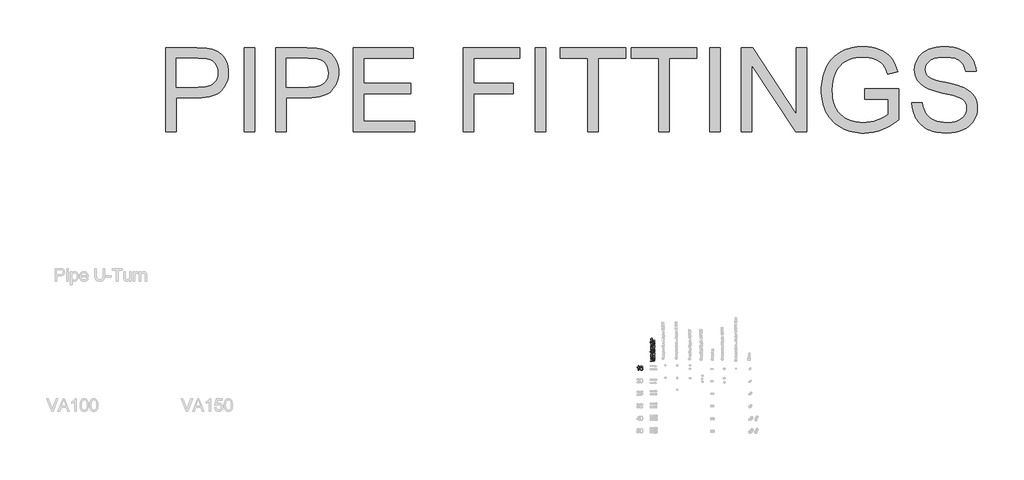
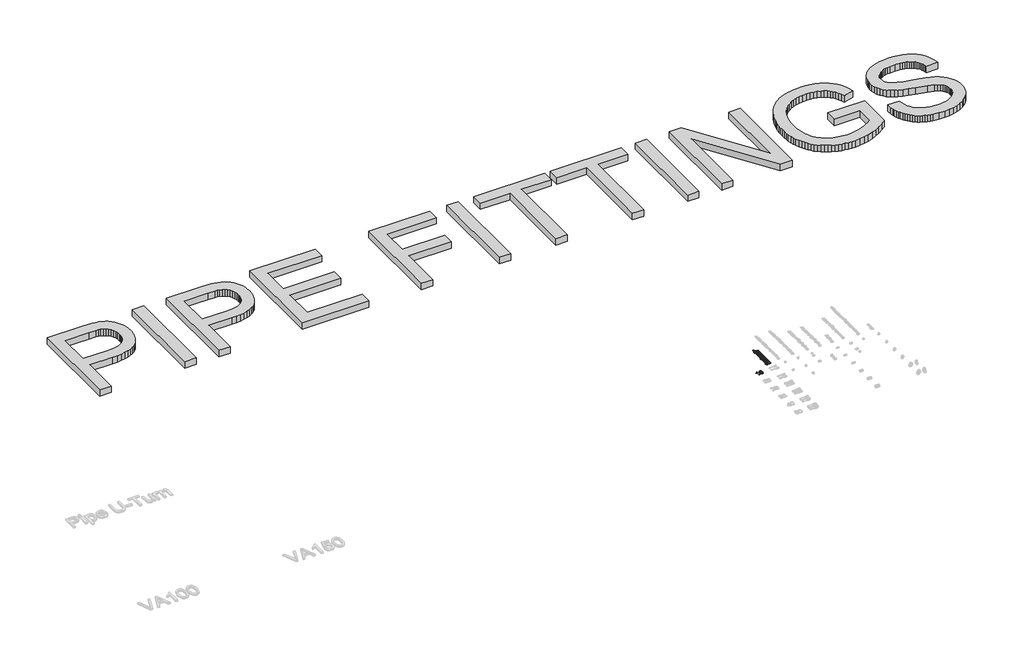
# One storey, part 22 of 26: 3 proxies.
"""IFC4 building model written with IfcOpenShell, lengths in millimetres."""

from ifc_helpers import new_model, si_unit, origin, origin_with_axes, place, context, project, spatial, polyline, outline, extrude, element, save

model = new_model("IFC4")

# Units and contexts
model_context = context("Model", 3, world=origin())
ifc_project = project(units=[si_unit("LENGTHUNIT", "METRE", prefix="MILLI")], contexts=[model_context])

# Site, building, storey
site = spatial("IfcSite", under=ifc_project)
building = spatial("IfcBuilding", under=site)
storey = spatial("IfcBuildingStorey", under=building, Name="Superpipe UFH", Elevation=0.0)

# Proxies
placement = place(None, origin())
element("IfcBuildingElementProxy", 1, Name="100mm Arial", ObjectType="100mm Arial", at=placement, inside=storey, context=model_context, shape_type="SweptSolid", body=[
    extrude(outline(polyline([(25445.0904934, 32173.57602), (25432.5334546, 32173.57602), (25432.5334546, 32251.8613086), (25420.6386035, 32243.3877599), (25407.4193771, 32237.0479269), (25407.4193771, 32248.9182526), (25425.8257396, 32260.665951), (25436.9970895, 32274.0323301), (25445.0904934, 32274.0323301), (25445.0904934, 32173.57602)])), origin_with_axes(), (0.0, 0.0, 1.0), 2.0),
    extrude(outline(polyline([(25539.2682842, 32247.3486228), (25526.7112454, 32245.7789929), (25521.9533049, 32256.251367), (25509.3717407, 32261.4752914), (25498.0409753, 32258.4341335), (25489.4693248, 32247.017529), (25485.9008694, 32224.6380409), (25496.9741175, 32234.6566939), (25510.6961159, 32237.9308437), (25522.2966615, 32235.6928949), (25532.0332716, 32228.9790485), (25538.6367534, 32218.7212722), (25540.837914, 32205.8515337), (25536.6931102, 32188.5242917), (25525.2887684, 32176.2615586), (25508.8321804, 32172.0063901), (25494.5859502, 32174.8268188), (25483.2398563, 32183.2881047), (25475.8178371, 32198.2241137), (25473.3438306, 32220.4687116), (25476.0906829, 32245.4785559), (25484.3312396, 32262.5789374), (25495.5822973, 32271.1689819), (25510.1565556, 32274.0323301), (25521.1746214, 32272.2603652), (25529.9976579, 32266.9444704), (25536.1780754, 32258.5015786), (25539.2682842, 32247.3486228)]), holes=[polyline([(25485.9008694, 32206.0477374), (25488.8071372, 32195.1706931), (25496.5326591, 32187.2734929), (25507.8511618, 32184.5634289), (25516.1377037, 32185.9675119), (25522.6522807, 32190.1797607), (25526.8737266, 32196.8016366), (25528.2808753, 32205.4346008), (25526.8921207, 32213.7211427), (25522.7258571, 32220.039516), (25516.1009155, 32224.0402327), (25507.336127, 32225.3738049), (25492.1426006, 32220.039516), (25487.4613022, 32213.8744269), (25485.9008694, 32206.0477374)])]), origin_with_axes(), (0.0, 0.0, 1.0), 2.0),
])
element("IfcBuildingElementProxy", 2, Name="2000mm Arial", ObjectType="2000mm Arial", at=placement, inside=storey, context=model_context, shape_type="SweptSolid", body=[
    extrude(outline(polyline([(14118.3923243, 37878.9278369), (14118.3923243, 39888.0540399), (14862.9854825, 39888.0540399), (15036.3805296, 39883.271574), (15105.6036583, 39877.2934915), (15163.1771906, 39868.9241761), (15233.0594412, 39853.8563428), (15297.0249231, 39833.1783089), (15355.0736363, 39806.8900747), (15407.2055807, 39774.99164), (15453.9725793, 39736.823883), (15495.9264552, 39691.7276818), (15533.0672083, 39639.7030363), (15565.3948386, 39580.7499466), (15591.575774, 39516.8151215), (15610.276442, 39449.84527), (15621.4968429, 39379.840392), (15625.2369765, 39306.8004875), (15622.7116199, 39243.9003305), (15615.1355501, 39183.4680486), (15602.508767, 39125.5036418), (15584.8312707, 39070.0071099), (15562.1030612, 39016.9784532), (15534.3241385, 38966.4176715), (15501.4945025, 38918.3247648), (15463.6141533, 38872.6997332), (15419.142585, 38831.0830825), (15366.5392918, 38795.0153186), (15305.8042737, 38764.4964414), (15236.9375306, 38739.5264509), (15159.9390626, 38720.1053473), (15074.8088696, 38706.2331304), (14981.5469518, 38697.9098002), (14880.1533089, 38695.1353569), (14369.5330996, 38695.1353569), (14369.5330996, 37878.9278369), (14118.3923243, 37878.9278369)]), holes=[polyline([(14369.5330996, 38946.2761322), (14894.8685888, 38946.2761322), (15015.6565105, 38952.0396168), (15068.968743, 38959.2439726), (15117.5598232, 38969.3300706), (15161.4297511, 38982.2979109), (15200.5785267, 38998.1474936), (15235.0061501, 39016.8788185), (15264.7126212, 39038.4918857), (15290.3493978, 39062.7184479), (15312.5679374, 39089.2902579), (15331.3682402, 39118.2073155), (15346.7503062, 39149.4696209), (15358.7141352, 39183.077174), (15367.2597274, 39219.0299748), (15372.3870827, 39257.3280234), (15374.0962011, 39297.9713196), (15370.0648276, 39356.5871842), (15357.970707, 39410.7884648), (15337.8138394, 39460.5751615), (15309.5942246, 39505.9472742), (15274.8140477, 39545.433275), (15234.9754933, 39577.561636), (15190.0785615, 39602.332357), (15140.1232522, 39619.7454381), (15098.8591551, 39627.2563621), (15043.2476601, 39632.6213079), (14888.9824768, 39636.9132645), (14369.5330996, 39636.9132645), (14369.5330996, 38946.2761322)])]), origin_with_axes(), (0.0, 0.0, 1.0), 150.0),
    extrude(outline(polyline([(16001.9481396, 37878.9278369), (16001.9481396, 39888.0540399), (16253.0889149, 39888.0540399), (16253.0889149, 37878.9278369), (16001.9481396, 37878.9278369)])), origin_with_axes(), (0.0, 0.0, 1.0), 150.0),
    extrude(outline(polyline([(16755.3704657, 37878.9278369), (16755.3704657, 39888.0540399), (17499.9636239, 39888.0540399), (17673.358671, 39883.271574), (17742.5817997, 39877.2934915), (17800.155332, 39868.9241761), (17870.0375827, 39853.8563428), (17934.0030646, 39833.1783089), (17992.0517777, 39806.8900747), (18044.1837221, 39774.99164), (18090.9507208, 39736.823883), (18132.9045966, 39691.7276818), (18170.0453497, 39639.7030363), (18202.3729801, 39580.7499466), (18228.5539154, 39516.8151215), (18247.2545835, 39449.84527), (18258.4749843, 39379.840392), (18262.2151179, 39306.8004875), (18259.6897613, 39243.9003305), (18252.1136915, 39183.4680486), (18239.4869084, 39125.5036418), (18221.8094121, 39070.0071099), (18199.0812026, 39016.9784532), (18171.3022799, 38966.4176715), (18138.4726439, 38918.3247648), (18100.5922947, 38872.6997332), (18056.1207265, 38831.0830825), (18003.5174332, 38795.0153186), (17942.7824151, 38764.4964414), (17873.915672, 38739.5264509), (17796.917204, 38720.1053473), (17711.7870111, 38706.2331304), (17618.5250932, 38697.9098002), (17517.1314504, 38695.1353569), (17006.5112411, 38695.1353569), (17006.5112411, 37878.9278369), (16755.3704657, 37878.9278369)]), holes=[polyline([(17006.5112411, 38946.2761322), (17531.8467302, 38946.2761322), (17652.6346519, 38952.0396168), (17705.9468844, 38959.2439726), (17754.5379646, 38969.3300706), (17798.4078925, 38982.2979109), (17837.5566682, 38998.1474936), (17871.9842916, 39016.8788185), (17901.6907627, 39038.4918857), (17927.3275392, 39062.7184479), (17949.5460789, 39089.2902579), (17968.3463817, 39118.2073155), (17983.7284476, 39149.4696209), (17995.6922766, 39183.077174), (18004.2378688, 39219.0299748), (18009.3652241, 39257.3280234), (18011.0743426, 39297.9713196), (18007.042969, 39356.5871842), (17994.9488484, 39410.7884648), (17974.7919808, 39460.5751615), (17946.5723661, 39505.9472742), (17911.7921891, 39545.433275), (17871.9536347, 39577.561636), (17827.0567029, 39602.332357), (17777.1013936, 39619.7454381), (17735.8372965, 39627.2563621), (17680.2258016, 39632.6213079), (17525.9606183, 39636.9132645), (17006.5112411, 39636.9132645), (17006.5112411, 38946.2761322)])]), origin_with_axes(), (0.0, 0.0, 1.0), 150.0),
    extrude(outline(polyline([(18607.5336841, 37878.9278369), (18607.5336841, 39888.0540399), (20051.5931425, 39888.0540399), (20051.5931425, 39636.9132645), (18858.6744595, 39636.9132645), (18858.6744595, 39040.453923), (19988.8079486, 39040.453923), (19988.8079486, 38789.3131476), (18858.6744595, 38789.3131476), (18858.6744595, 38130.0686123), (20082.9857394, 38130.0686123), (20082.9857394, 37878.9278369), (18607.5336841, 37878.9278369)])), origin_with_axes(), (0.0, 0.0, 1.0), 150.0),
    extrude(outline(polyline([(21244.5118255, 37878.9278369), (21244.5118255, 39888.0540399), (22594.3934931, 39888.0540399), (22594.3934931, 39636.9132645), (21495.6526009, 39636.9132645), (21495.6526009, 39040.453923), (22437.4305085, 39040.453923), (22437.4305085, 38789.3131476), (21495.6526009, 38789.3131476), (21495.6526009, 37878.9278369), (21244.5118255, 37878.9278369)])), origin_with_axes(), (0.0, 0.0, 1.0), 150.0),
    extrude(outline(polyline([(22971.1046562, 37878.9278369), (22971.1046562, 39888.0540399), (23222.2454316, 39888.0540399), (23222.2454316, 37878.9278369), (22971.1046562, 37878.9278369)])), origin_with_axes(), (0.0, 0.0, 1.0), 150.0),
    extrude(outline(polyline([(24226.8085331, 37878.9278369), (24226.8085331, 39636.9132645), (23567.5639977, 39636.9132645), (23567.5639977, 39888.0540399), (25137.1938438, 39888.0540399), (25137.1938438, 39636.9132645), (24477.9493084, 39636.9132645), (24477.9493084, 37878.9278369), (24226.8085331, 37878.9278369)])), origin_with_axes(), (0.0, 0.0, 1.0), 150.0),
    extrude(outline(polyline([(25922.0087668, 37878.9278369), (25922.0087668, 39636.9132645), (25262.7642315, 39636.9132645), (25262.7642315, 39888.0540399), (26832.3940776, 39888.0540399), (26832.3940776, 39636.9132645), (26173.1495422, 39636.9132645), (26173.1495422, 37878.9278369), (25922.0087668, 37878.9278369)])), origin_with_axes(), (0.0, 0.0, 1.0), 150.0),
    extrude(outline(polyline([(27146.3200468, 37878.9278369), (27146.3200468, 39888.0540399), (27397.4608222, 39888.0540399), (27397.4608222, 37878.9278369), (27146.3200468, 37878.9278369)])), origin_with_axes(), (0.0, 0.0, 1.0), 150.0),
    extrude(outline(polyline([(27899.7423729, 37878.9278369), (27899.7423729, 39888.0540399), (28168.5414841, 39888.0540399), (29218.2314436, 38296.3512741), (29218.2314436, 39888.0540399), (29469.372219, 39888.0540399), (29469.372219, 37878.9278369), (29200.5731079, 37878.9278369), (28150.8831483, 39471.121112), (28150.8831483, 37878.9278369), (27899.7423729, 37878.9278369)])), origin_with_axes(), (0.0, 0.0, 1.0), 150.0),
    extrude(outline(polyline([(30850.6464836, 38663.7427599), (30850.6464836, 38914.8835353), (31666.8540035, 38914.8835353), (31666.8540035, 38163.9137558), (31568.4608982, 38090.0614453), (31468.5042945, 38025.9580076), (31366.9841922, 37971.6034429), (31263.9005915, 37926.9977509), (31159.3761196, 37892.2329024), (31053.5334039, 37867.4008677), (30946.3724444, 37852.5016469), (30837.8932411, 37847.53524), (30764.9184824, 37849.5087736), (30693.6375137, 37855.4293745), (30624.0503351, 37865.2970426), (30556.1569464, 37879.1117779), (30489.9573478, 37896.8735805), (30425.4515392, 37918.5824503), (30362.6395206, 37944.2383874), (30301.5212921, 37973.8413917), (30243.0970327, 38007.1845296), (30188.3669217, 38044.0608675), (30137.3309591, 38084.4704054), (30089.9891449, 38128.4131433), (30046.341479, 38175.8890812), (30006.3879615, 38226.8982191), (29970.1285923, 38281.440557), (29937.5633715, 38339.5160949), (29908.7651091, 38400.2242883), (29883.806615, 38462.6645927), (29862.6878892, 38526.8370083), (29845.4089317, 38592.7415349), (29831.9697426, 38660.3781725), (29822.3703218, 38729.7469212), (29816.6106693, 38800.847781), (29814.6907851, 38873.6807519), (29816.6030051, 38946.2723001), (29822.339665, 39017.6299109), (29831.9007647, 39087.7535841), (29845.2863044, 39156.6433198), (29862.496284, 39224.299118), (29883.5307035, 39290.7209786), (29908.3895629, 39355.9089018), (29937.0728622, 39419.8628874), (29969.343011, 39481.1650569), (30004.9624187, 39538.3975319), (30043.9310855, 39591.5603123), (30086.2490112, 39640.6533981), (30131.916196, 39685.6767894), (30180.9326398, 39726.6304861), (30233.2983425, 39763.5144882), (30289.0133043, 39796.3287958), (30347.4912131, 39825.1845398), (30408.145757, 39850.1928512), (30470.9769361, 39871.3537302), (30535.9847504, 39888.6671765), (30603.1691997, 39902.1331904), (30672.5302842, 39911.7517717), (30744.0680039, 39917.5229205), (30817.7823587, 39919.4466368), (30923.8243438, 39914.9860676), (31024.6546673, 39901.60436), (31120.2733292, 39879.3015141), (31210.6803295, 39848.0775297), (31293.7450183, 39808.8980973), (31367.3367458, 39762.7289069), (31431.4555119, 39709.5699586), (31486.1013166, 39649.4212524), (31533.0215994, 39580.9185592), (31573.9637997, 39502.6976499), (31608.9279177, 39414.7585247), (31637.9139532, 39317.1011834), (31406.3935509, 39251.8634429), (31381.9447267, 39322.1135756), (31354.7061306, 39384.2396475), (31324.6777628, 39438.2416587), (31291.8596231, 39484.1196092), (31253.9677776, 39523.8508647), (31208.7182922, 39559.4127909), (31156.1111669, 39590.8053878), (31096.1464017, 39618.0286554), (31030.7707054, 39640.0249331), (30961.9307871, 39655.7365599), (30889.6266466, 39665.1635361), (30813.858284, 39668.3058614), (30724.049092, 39664.9182814), (30640.5245506, 39654.7555413), (30563.2846601, 39637.8176411), (30492.3294203, 39614.1045808), (30427.7967869, 39584.888619), (30369.8247159, 39551.4420143), (30318.413207, 39513.7647666), (30273.5622605, 39471.856876), (30234.3061859, 39426.7453464), (30199.6792931, 39379.4571816), (30169.6815821, 39329.9923816), (30144.3130528, 39278.3509466), (30109.9773999, 39185.4607428), (30085.4519336, 39088.7690917), (30070.7366538, 38988.2759934), (30065.8315605, 38883.9814477), (30071.7330009, 38758.5796726), (30079.1098013, 38699.8680054), (30089.4373219, 38643.8158185), (30102.7155626, 38590.4231119), (30118.9445236, 38539.6898855), (30138.1242047, 38491.6161393), (30160.2546059, 38446.2018735), (30185.2016037, 38403.5352262), (30212.8310744, 38363.704336), (30243.143018, 38326.7092029), (30276.1374344, 38292.5498268), (30311.8143237, 38261.2262078), (30350.173686, 38232.7383458), (30391.215521, 38207.0862408), (30434.939829, 38184.2698929), (30526.4658037, 38146.8225715), (30620.7815502, 38120.0744847), (30717.8870686, 38104.0256327), (30817.7823587, 38098.6760154), (30905.2922883, 38102.7073889), (30991.7292287, 38114.8015095), (31077.09318, 38134.9583771), (31161.3841422, 38163.1779918), (31240.0955607, 38195.9654747), (31308.7208812, 38229.8259466), (31367.2601037, 38264.7594078), (31415.7132282, 38300.765858), (31415.7132282, 38663.7427599), (30850.6464836, 38663.7427599)])), origin_with_axes(), (0.0, 0.0, 1.0), 150.0),
    extrude(outline(polyline([(31980.7799727, 38569.5649692), (32231.9207481, 38569.5649692), (32243.4170605, 38496.4637511), (32260.7381711, 38430.1990067), (32283.8840799, 38370.770736), (32312.8547871, 38318.1789391), (32349.1218204, 38271.3659553), (32394.156708, 38229.2741236), (32447.9594498, 38191.9034443), (32510.5300458, 38159.2539172), (32579.5692336, 38132.7510852), (32652.7777506, 38113.8204908), (32730.1555969, 38102.4621342), (32811.7027725, 38098.6760154), (32883.8383004, 38101.5424292), (32951.620558, 38110.1416709), (33015.0495453, 38124.4737403), (33074.1252624, 38144.5386374), (33127.3915096, 38169.6159268), (33173.3920874, 38198.9851727), (33212.1269958, 38232.6463753), (33243.5962349, 38270.5995344), (33267.9530886, 38311.2045096), (33285.3508413, 38352.8211604), (33295.7894929, 38395.4494865), (33299.2690435, 38439.0894882), (33296.6632127, 38482.5455489), (33288.8457203, 38523.1505241), (33275.8165663, 38560.9044139), (33257.5757507, 38595.8072182), (33231.272188, 38628.042878), (33194.0547928, 38657.7953344), (33145.9235651, 38685.0645872), (33086.8785049, 38709.8506367), (32954.2570456, 38749.2753238), (32721.2038017, 38805.7452101), (32590.3757672, 38837.8582426), (32481.1607998, 38869.2048542), (32393.5588997, 38899.7850451), (32327.5700669, 38929.5988151), (32260.5082448, 38969.6059821), (32202.5515022, 39014.0890467), (32153.6998389, 39063.0480089), (32113.953255, 39116.4828687), (32083.1584663, 39173.8418031), (32061.1621887, 39234.5729891), (32047.9644221, 39298.6764268), (32043.5651666, 39366.1521161), (32049.0067544, 39440.93946), (32065.331518, 39513.2436005), (32092.5394572, 39583.0645375), (32130.6305721, 39650.402271), (32153.6500215, 39682.4539898), (32179.1756671, 39712.5130145), (32237.7455464, 39766.6529815), (32306.3402101, 39812.8221719), (32384.9596581, 39851.0205857), (32470.9520745, 39880.9569831), (32561.6656431, 39902.340124), (32657.100364, 39915.1700086), (32757.2562372, 39919.4466368), (32866.5171898, 39914.9707392), (32969.1562665, 39901.5430464), (33065.1734672, 39879.1635583), (33154.568792, 39847.8322751), (33235.686772, 39807.8251081), (33306.871938, 39759.4179689), (33338.7397159, 39732.0644097), (33368.1242902, 39702.6108575), (33395.0256611, 39671.0573122), (33419.4438285, 39637.4037738), (33460.4320142, 39565.6974416), (33490.6903083, 39489.3925845), (33510.2187109, 39408.4892023), (33519.0172219, 39322.9872953), (33267.8764465, 39322.9872953), (33261.0399728, 39364.3586913), (33251.0765021, 39403.1242566), (33237.9860344, 39439.283991), (33221.7685698, 39472.8378947), (33202.4241082, 39503.7859675), (33179.9526497, 39532.1282096), (33154.3541942, 39557.8646208), (33125.6287417, 39580.9952012), (33093.5233734, 39601.4586372), (33057.7851705, 39619.1936151), (33018.4141328, 39634.2001348), (32975.4102604, 39646.4781964), (32928.7735533, 39656.0277998), (32878.5040115, 39662.8489452), (32767.0664238, 39668.3058614), (32652.0726434, 39662.9102588), (32600.8527398, 39656.1657556), (32553.8174939, 39646.7234511), (32510.9669057, 39634.5833452), (32472.3009751, 39619.7454381), (32437.8197023, 39602.2097296), (32407.5230871, 39581.9762199), (32381.0815687, 39559.8343223), (32358.1655861, 39536.5734503), (32338.7751393, 39512.1936039), (32322.9102283, 39486.6947832), (32310.570853, 39460.076988), (32301.7570135, 39432.3402184), (32296.4687099, 39403.4844744), (32294.705942, 39373.509756), (32299.7030057, 39322.8953248), (32314.694197, 39277.0020459), (32339.6795159, 39235.8299193), (32374.6589622, 39199.3789449), (32398.2340668, 39182.1651332), (32429.7186342, 39164.859351), (32516.4161577, 39129.9718752), (32634.7515328, 39094.7165173), (32784.7247595, 39059.0932774), (32936.8439645, 39024.3590857), (33061.6172746, 38991.7708723), (33159.0446896, 38961.3286372), (33229.1262097, 38933.0323804), (33306.1208456, 38890.1434711), (33372.2936195, 38841.9202729), (33427.6445314, 38788.3627858), (33472.1735812, 38729.4710097), (33506.4019352, 38665.5515131), (33530.8507594, 38596.9108642), (33545.520054, 38523.5490629), (33550.4098188, 38445.4661095), (33544.78429, 38366.9079751), (33527.9077035, 38290.6491032), (33499.7800592, 38216.6894937), (33460.4013573, 38145.0291467), (33410.4613765, 38078.4425056), (33350.6498954, 38019.7040137), (33280.9669142, 37968.8136711), (33201.4124327, 37925.7714776), (33114.301042, 37891.5431236), (33021.9473328, 37867.0942994), (32924.3513051, 37852.4250048), (32821.5129591, 37847.53524), (32693.0455007, 37852.8082152), (32575.4612179, 37868.627141), (32520.7502675, 37880.4913354), (32468.7601109, 37894.9920174), (32419.4907483, 37912.129187), (32372.9421796, 37931.9028442), (32328.9687849, 37954.3283175), (32287.4249441, 37979.4209352), (32248.3106574, 38007.1806975), (32211.6259247, 38037.6076042), (32177.370746, 38070.7016553), (32145.5451213, 38106.4628509), (32116.1490507, 38144.891191), (32089.182534, 38185.9866755), (32064.9559718, 38229.1055111), (32043.7797644, 38273.6039041), (32025.6539119, 38319.4818545), (32010.5784144, 38366.7393625), (31998.5532716, 38415.3764279), (31989.5784838, 38465.3930509), (31980.7799727, 38569.5649692)])), origin_with_axes(), (0.0, 0.0, 1.0), 150.0),
])
element("IfcBuildingElementProxy", 3, Name="50mm Arial", ObjectType="50mm Arial", at=placement, inside=storey, context=model_context, shape_type="SweptSolid", body=[
    extrude(outline(polyline([(25766.9827787, 32392.6190837), (25716.7546236, 32392.6190837), (25716.7546236, 32411.2339127), (25717.2328702, 32418.7387054), (25719.5811836, 32424.8394151), (25724.4372259, 32428.7941466), (25731.2859624, 32430.2902), (25742.1384813, 32426.2496295), (25746.5775907, 32411.6631084), (25746.5775907, 32398.8976031), (25766.9827787, 32398.8976031), (25766.9827787, 32392.6190837)]), holes=[polyline([(25740.2990713, 32398.8976031), (25740.2990713, 32412.0309903), (25737.9936775, 32421.2770912), (25731.5066916, 32424.0116807), (25726.3072928, 32422.3991312), (25723.4623387, 32418.1623569), (25723.033143, 32411.8838375), (25723.033143, 32398.8976031), (25740.2990713, 32398.8976031)])]), origin_with_axes(), (0.0, 0.0, 1.0), 2.0),
    extrude(outline(polyline([(25766.9827787, 32438.1383493), (25730.0964773, 32438.1383493), (25730.0964773, 32443.6320537), (25735.5533936, 32443.6320537), (25730.525673, 32447.5316029), (25729.3116624, 32451.4556775), (25731.2491742, 32457.7587223), (25736.8777687, 32455.661795), (25735.5901818, 32451.247211), (25736.8287178, 32447.6971498), (25740.2622831, 32445.4346755), (25747.5953975, 32444.4168687), (25766.9827787, 32444.4168687), (25766.9827787, 32438.1383493)])), origin_with_axes(), (0.0, 0.0, 1.0), 2.0),
    extrude(outline(polyline([(25755.9953698, 32487.508113), (25756.7801847, 32493.6640051), (25764.8858513, 32487.9066519), (25767.7675936, 32477.1828917), (25762.7950553, 32464.1476063), (25748.8461963, 32459.3283522), (25734.4374848, 32464.1966573), (25729.3116624, 32476.8272724), (25734.4252221, 32489.096137), (25748.8094081, 32493.8602088), (25750.5016653, 32493.8234206), (25750.5016653, 32465.6068716), (25758.6563829, 32469.2182465), (25761.4890742, 32477.305519), (25760.1769618, 32483.4614111), (25755.9953698, 32487.508113)]), holes=[polyline([(25744.2231459, 32465.6068716), (25744.2231459, 32487.5816894), (25738.5332377, 32485.0678291), (25735.5901818, 32476.802747), (25737.9384952, 32469.0710937), (25744.2231459, 32465.6068716)])]), origin_with_axes(), (0.0, 0.0, 1.0), 2.0),
    extrude(outline(polyline([(25755.9953698, 32497.7842834), (25755.2105548, 32504.0628028), (25759.8703934, 32506.9690706), (25761.4890742, 32513.6277347), (25760.0052835, 32520.0288814), (25756.5226673, 32522.113546), (25753.7022387, 32520.0166187), (25751.9118796, 32513.5541583), (25748.840065, 32504.099591), (25745.2532155, 32499.9731813), (25740.1887067, 32498.5690983), (25735.510474, 32499.6972698), (25731.9358873, 32502.7752158), (25730.0780832, 32506.7667355), (25729.3116624, 32512.1684694), (25730.5440671, 32519.8081522), (25733.8795305, 32524.6641945), (25739.5142564, 32526.8224356), (25740.2990713, 32520.5439162), (25736.8348492, 32518.1833401), (25735.5901818, 32512.6589788), (25736.7796669, 32506.6502395), (25739.5510446, 32504.8476177), (25741.3781918, 32505.5956445), (25742.7638807, 32507.9378265), (25744.1005186, 32513.3456918), (25747.0558373, 32522.5611358), (25750.4035634, 32526.8408297), (25755.8604797, 32528.3920654), (25761.869219, 32526.5710495), (25766.2286206, 32521.3164684), (25767.7675936, 32513.5418955), (25764.8000122, 32502.5912748), (25755.9953698, 32497.7842834)])), origin_with_axes(), (0.0, 0.0, 1.0), 2.0),
    extrude(outline(polyline([(25755.9953698, 32533.100955), (25755.2105548, 32539.3794743), (25759.8703934, 32542.2857421), (25761.4890742, 32548.9444062), (25760.0052835, 32555.3455529), (25756.5226673, 32557.4302176), (25753.7022387, 32555.3332902), (25751.9118796, 32548.8708298), (25748.840065, 32539.4162625), (25745.2532155, 32535.2898528), (25740.1887067, 32533.8857699), (25735.510474, 32535.0139413), (25731.9358873, 32538.0918874), (25730.0780832, 32542.083407), (25729.3116624, 32547.485141), (25730.5440671, 32555.1248237), (25733.8795305, 32559.9808661), (25739.5142564, 32562.1391071), (25740.2990713, 32555.8605877), (25736.8348492, 32553.5000116), (25735.5901818, 32547.9756503), (25736.7796669, 32541.966911), (25739.5510446, 32540.1642893), (25741.3781918, 32540.912316), (25742.7638807, 32543.254498), (25744.1005186, 32548.6623634), (25747.0558373, 32557.8778073), (25750.4035634, 32562.1575012), (25755.8604797, 32563.708737), (25761.869219, 32561.8877211), (25766.2286206, 32556.6331399), (25767.7675936, 32548.8585671), (25764.8000122, 32537.9079464), (25755.9953698, 32533.100955)])), origin_with_axes(), (0.0, 0.0, 1.0), 2.0),
    extrude(outline(polyline([(25749.1282392, 32626.4939308), (25750.74692, 32632.7724502), (25763.408192, 32625.3289711), (25767.7675936, 32612.1833212), (25764.4689184, 32599.117379), (25754.9162492, 32591.4531708), (25741.4885564, 32588.8228145), (25727.8401344, 32591.7965273), (25718.9925724, 32600.2516818), (25715.9698087, 32612.3182113), (25719.8816206, 32624.8936441), (25730.893555, 32631.9876353), (25732.3896084, 32625.7091159), (25724.6702179, 32620.5587679), (25722.2483281, 32612.0729566), (25724.9338666, 32602.2505073), (25732.1443537, 32596.7016206), (25741.4762937, 32595.1013339), (25752.2920243, 32596.9959262), (25759.2020745, 32602.8943008), (25761.4890742, 32611.5579218), (25758.37434, 32621.1657732), (25749.1282392, 32626.4939308)])), origin_with_axes(), (0.0, 0.0, 1.0), 2.0),
    extrude(outline(polyline([(25748.539628, 32639.0509696), (25739.6460808, 32640.4090673), (25733.3951525, 32644.4833604), (25729.3116624, 32655.5443457), (25734.2842007, 32667.40854), (25748.0245932, 32672.0131963), (25759.1959431, 32669.9775826), (25765.5173821, 32664.0485511), (25767.7675936, 32655.5443457), (25762.8134494, 32643.6065749), (25748.539628, 32639.0509696)]), holes=[polyline([(25748.5273653, 32645.329489), (25758.257844, 32648.2357567), (25761.4890742, 32655.5443457), (25758.2394499, 32662.8284092), (25748.3311615, 32665.734677), (25738.821412, 32662.8100151), (25735.5901818, 32655.5443457), (25738.8091492, 32648.2357567), (25748.5273653, 32645.329489)])]), origin_with_axes(), (0.0, 0.0, 1.0), 2.0),
    extrude(outline(polyline([(25766.9827787, 32679.0765306), (25730.0964773, 32679.0765306), (25730.0964773, 32685.35505), (25735.2468252, 32685.35505), (25730.7954531, 32690.1559101), (25729.3116624, 32696.7103409), (25730.5072789, 32702.6393724), (25733.6465386, 32706.6860744), (25738.2634576, 32708.5684039), (25744.3335105, 32708.8994977), (25766.9827787, 32708.8994977), (25766.9827787, 32702.6209783), (25745.1796391, 32702.6209783), (25739.624621, 32701.8974771), (25736.6876964, 32699.3406972), (25735.5901818, 32695.0303465), (25738.0549911, 32688.2183982), (25747.4114565, 32685.35505), (25766.9827787, 32685.35505), (25766.9827787, 32679.0765306)])), origin_with_axes(), (0.0, 0.0, 1.0), 2.0),
    extrude(outline(polyline([(25766.9827787, 32717.5324619), (25730.0964773, 32717.5324619), (25730.0964773, 32723.8109813), (25735.2468252, 32723.8109813), (25730.7954531, 32728.6118413), (25729.3116624, 32735.1662722), (25730.5072789, 32741.0953037), (25733.6465386, 32745.1420056), (25738.2634576, 32747.0243352), (25744.3335105, 32747.3554289), (25766.9827787, 32747.3554289), (25766.9827787, 32741.0769096), (25745.1796391, 32741.0769096), (25739.624621, 32740.3534083), (25736.6876964, 32737.7966284), (25735.5901818, 32733.4862777), (25738.0549911, 32726.6743295), (25747.4114565, 32723.8109813), (25766.9827787, 32723.8109813), (25766.9827787, 32717.5324619)])), origin_with_axes(), (0.0, 0.0, 1.0), 2.0),
    extrude(outline(polyline([(25755.9953698, 32781.8137092), (25756.7801847, 32787.9696012), (25764.8858513, 32782.212248), (25767.7675936, 32771.4884878), (25762.7950553, 32758.4532025), (25748.8461963, 32753.6339483), (25734.4374848, 32758.5022534), (25729.3116624, 32771.1328686), (25734.4252221, 32783.4017331), (25748.8094081, 32788.1658049), (25750.5016653, 32788.1290167), (25750.5016653, 32759.9124677), (25758.6563829, 32763.5238426), (25761.4890742, 32771.6111152), (25760.1769618, 32777.7670072), (25755.9953698, 32781.8137092)]), holes=[polyline([(25744.2231459, 32759.9124677), (25744.2231459, 32781.8872856), (25738.5332377, 32779.3734253), (25735.5901818, 32771.1083431), (25737.9384952, 32763.3766898), (25744.2231459, 32759.9124677)])]), origin_with_axes(), (0.0, 0.0, 1.0), 2.0),
    extrude(outline(polyline([(25753.640925, 32817.988772), (25754.4257399, 32824.2672914), (25764.2297951, 32819.2273081), (25767.7675936, 32809.2699687), (25762.8318435, 32797.3689862), (25748.6745181, 32792.8746945), (25738.2450635, 32794.7938122), (25731.5434798, 32800.643136), (25729.3116624, 32809.1841296), (25732.3773457, 32818.7306674), (25741.0838862, 32823.4824765), (25741.8687012, 32817.2039571), (25737.165943, 32814.291558), (25735.5901818, 32809.2331805), (25738.6926533, 32801.9552484), (25748.5028398, 32799.1532139), (25758.4049968, 32801.8939347), (25761.4890742, 32809.0615023), (25759.5638251, 32814.978271), (25753.640925, 32817.988772)])), origin_with_axes(), (0.0, 0.0, 1.0), 2.0),
    extrude(outline(polyline([(25761.7465916, 32843.1028496), (25767.1667197, 32843.8876645), (25767.7675936, 32839.1910377), (25766.7252613, 32833.9303251), (25763.9906718, 32831.3061002), (25756.8660238, 32830.5458108), (25736.3749967, 32830.5458108), (25736.3749967, 32825.8369213), (25730.0964773, 32825.8369213), (25730.0964773, 32830.5458108), (25721.1324194, 32830.5458108), (25717.4413367, 32836.8243302), (25730.0964773, 32836.8243302), (25730.0964773, 32843.1028496), (25736.3749967, 32843.1028496), (25736.3749967, 32836.8243302), (25756.6820828, 32836.8243302), (25759.9194444, 32837.155424), (25761.4890742, 32840.3682601), (25761.7465916, 32843.1028496)])), origin_with_axes(), (0.0, 0.0, 1.0), 2.0),
    extrude(outline(polyline([(25723.033143, 32849.3813689), (25716.7546236, 32849.3813689), (25716.7546236, 32855.6598883), (25723.033143, 32855.6598883), (25723.033143, 32849.3813689)])), origin_with_axes(), (0.0, 0.0, 1.0), 2.0),
    extrude(outline(polyline([(25766.9827787, 32849.3813689), (25730.0964773, 32849.3813689), (25730.0964773, 32855.6598883), (25766.9827787, 32855.6598883), (25766.9827787, 32849.3813689)])), origin_with_axes(), (0.0, 0.0, 1.0), 2.0),
    extrude(outline(polyline([(25748.539628, 32863.5080376), (25739.6460808, 32864.8661353), (25733.3951525, 32868.9404284), (25729.3116624, 32880.0014137), (25734.2842007, 32891.865608), (25748.0245932, 32896.4702643), (25759.1959431, 32894.4346506), (25765.5173821, 32888.5056191), (25767.7675936, 32880.0014137), (25762.8134494, 32868.0636429), (25748.539628, 32863.5080376)]), holes=[polyline([(25748.5273653, 32869.7865569), (25758.257844, 32872.6928247), (25761.4890742, 32880.0014137), (25758.2394499, 32887.2854772), (25748.3311615, 32890.1917449), (25738.821412, 32887.2670831), (25735.5901818, 32880.0014137), (25738.8091492, 32872.6928247), (25748.5273653, 32869.7865569)])]), origin_with_axes(), (0.0, 0.0, 1.0), 2.0),
    extrude(outline(polyline([(25766.9827787, 32903.5335986), (25730.0964773, 32903.5335986), (25730.0964773, 32909.812118), (25735.2468252, 32909.812118), (25730.7954531, 32914.6129781), (25729.3116624, 32921.1674089), (25730.5072789, 32927.0964404), (25733.6465386, 32931.1431424), (25738.2634576, 32933.0254719), (25744.3335105, 32933.3565657), (25766.9827787, 32933.3565657), (25766.9827787, 32927.0780463), (25745.1796391, 32927.0780463), (25739.624621, 32926.3545451), (25736.6876964, 32923.7977652), (25735.5901818, 32919.4874145), (25738.0549911, 32912.6754662), (25747.4114565, 32909.812118), (25766.9827787, 32909.812118), (25766.9827787, 32903.5335986)])), origin_with_axes(), (0.0, 0.0, 1.0), 2.0),
    extrude(outline(polyline([(25827.9701876, 32397.9533727), (25791.0838862, 32386.7329718), (25791.0838862, 32393.2567459), (25812.6049829, 32399.6211044), (25820.2937166, 32401.521828), (25812.8870258, 32403.0791951), (25791.0838862, 32408.1437039), (25791.0838862, 32415.6239712), (25812.8257121, 32420.6639545), (25819.5334272, 32422.0496433), (25812.4578301, 32424.0362061), (25791.0838862, 32430.4128274), (25791.0838862, 32436.9611269), (25827.9701876, 32425.6548869), (25827.9701876, 32418.0642551), (25806.3387263, 32413.2450009), (25799.594223, 32411.8470493), (25827.9701876, 32405.6298436), (25827.9701876, 32397.9533727)])), origin_with_axes(), (0.0, 0.0, 1.0), 2.0),
    extrude(outline(polyline([(25784.0205519, 32441.277609), (25777.7420325, 32441.277609), (25777.7420325, 32447.5561283), (25784.0205519, 32447.5561283), (25784.0205519, 32441.277609)])), origin_with_axes(), (0.0, 0.0, 1.0), 2.0),
    extrude(outline(polyline([(25827.9701876, 32441.277609), (25791.0838862, 32441.277609), (25791.0838862, 32447.5561283), (25827.9701876, 32447.5561283), (25827.9701876, 32441.277609)])), origin_with_axes(), (0.0, 0.0, 1.0), 2.0),
    extrude(outline(polyline([(25822.7340005, 32470.3157611), (25828.1541286, 32471.100576), (25828.7550025, 32466.4039492), (25827.7126702, 32461.1432367), (25824.9780807, 32458.5190118), (25817.8534327, 32457.7587223), (25797.3624056, 32457.7587223), (25797.3624056, 32453.0498328), (25791.0838862, 32453.0498328), (25791.0838862, 32457.7587223), (25782.1198283, 32457.7587223), (25778.4287456, 32464.0372417), (25791.0838862, 32464.0372417), (25791.0838862, 32470.3157611), (25797.3624056, 32470.3157611), (25797.3624056, 32464.0372417), (25817.6694917, 32464.0372417), (25820.9068533, 32464.3683355), (25822.4764831, 32467.5811716), (25822.7340005, 32470.3157611)])), origin_with_axes(), (0.0, 0.0, 1.0), 2.0),
    extrude(outline(polyline([(25827.9701876, 32476.5942805), (25777.7420325, 32476.5942805), (25777.7420325, 32482.8727999), (25796.2097087, 32482.8727999), (25790.2990713, 32493.7988951), (25791.9116207, 32500.8499667), (25796.3691242, 32505.1296606), (25804.6219436, 32506.4172476), (25827.9701876, 32506.4172476), (25827.9701876, 32500.1387282), (25805.2718685, 32500.1387282), (25798.6499926, 32498.1399027), (25796.5775907, 32492.47452), (25797.9755423, 32487.3303034), (25801.7647268, 32483.8967381), (25808.37434, 32482.8727999), (25827.9701876, 32482.8727999), (25827.9701876, 32476.5942805)])), origin_with_axes(), (0.0, 0.0, 1.0), 2.0),
    extrude(outline(polyline([(25827.9701876, 32534.6705848), (25791.0838862, 32534.6705848), (25791.0838862, 32540.9491042), (25797.1539391, 32540.9491042), (25792.1814008, 32545.2655863), (25790.2990713, 32551.4092156), (25792.218189, 32557.6999977), (25797.5953975, 32561.1580885), (25792.1231529, 32566.0570504), (25790.2990713, 32572.2435992), (25793.3340978, 32580.4534991), (25802.6844318, 32583.32911), (25827.9701876, 32583.32911), (25827.9701876, 32577.0505906), (25805.3822331, 32577.0505906), (25800.1399147, 32576.4681108), (25797.5586093, 32574.3589207), (25796.5775907, 32570.7720713), (25799.091451, 32564.5977851), (25807.1480667, 32562.1391071), (25827.9701876, 32562.1391071), (25827.9701876, 32555.8605877), (25804.6832573, 32555.8605877), (25798.6009417, 32554.4074538), (25796.5775907, 32549.643382), (25797.9264913, 32544.9958061), (25801.8750914, 32541.9055974), (25809.3676214, 32540.9491042), (25827.9701876, 32540.9491042), (25827.9701876, 32534.6705848)])), origin_with_axes(), (0.0, 0.0, 1.0), 2.0),
    extrude(outline(polyline([(25823.2612981, 32616.2913368), (25827.5164665, 32610.2028898), (25828.7550025, 32603.4767806), (25825.7751584, 32594.3594385), (25818.1600011, 32591.1772593), (25813.1935941, 32592.3790071), (25809.5883506, 32595.5366609), (25807.5282114, 32599.9328507), (25806.583981, 32605.3652415), (25804.4257399, 32616.2545486), (25798.3924752, 32614.5622914), (25796.5775907, 32607.6215844), (25797.7854699, 32601.2694887), (25802.0712951, 32598.2405936), (25801.2864802, 32591.9620742), (25795.1551136, 32594.6782696), (25791.5621328, 32600.1474486), (25790.2990713, 32608.4309248), (25791.41498, 32616.0399508), (25794.2170146, 32620.3380387), (25798.4783143, 32622.2632879), (25803.9720188, 32622.5698562), (25811.7833798, 32622.5698562), (25822.691081, 32622.8886872), (25827.9701876, 32624.139486), (25827.9701876, 32617.8609666), (25823.2612981, 32616.2913368)]), holes=[polyline([(25810.7042593, 32616.2913368), (25812.6295084, 32606.1623192), (25813.6473153, 32600.7605852), (25815.3027842, 32598.31417), (25817.7185427, 32597.4557786), (25821.1153198, 32599.3258455), (25822.4764831, 32604.8134186), (25820.9742983, 32611.1655143), (25817.3383979, 32615.2612672), (25812.4823556, 32616.2545486), (25810.7042593, 32616.2913368)])]), origin_with_axes(), (0.0, 0.0, 1.0), 2.0),
    extrude(outline(polyline([(25827.9701876, 32631.2028203), (25777.7420325, 32631.2028203), (25777.7420325, 32637.4813397), (25827.9701876, 32637.4813397), (25827.9701876, 32631.2028203)])), origin_with_axes(), (0.0, 0.0, 1.0), 2.0),
    extrude(outline(polyline([(25816.9827787, 32672.7244349), (25817.7675936, 32678.8803269), (25825.8732602, 32673.1229737), (25828.7550025, 32662.3992135), (25823.7824642, 32649.3639282), (25809.8336052, 32644.544674), (25795.4248938, 32649.4129791), (25790.2990713, 32662.0435943), (25795.412631, 32674.3124588), (25809.796817, 32679.0765306), (25811.4890742, 32679.0397424), (25811.4890742, 32650.8231934), (25819.6437918, 32654.4345683), (25822.4764831, 32662.5218409), (25821.1643707, 32668.6777329), (25816.9827787, 32672.7244349)]), holes=[polyline([(25805.2105548, 32650.8231934), (25805.2105548, 32672.7980113), (25799.5206466, 32670.284151), (25796.5775907, 32662.0190688), (25798.9259041, 32654.2874155), (25805.2105548, 32650.8231934)])]), origin_with_axes(), (0.0, 0.0, 1.0), 2.0),
    extrude(outline(polyline([(25822.7340005, 32718.3172768), (25828.1541286, 32719.1020917), (25828.7550025, 32714.4054649), (25827.7126702, 32709.1447524), (25824.9780807, 32706.5205275), (25817.8534327, 32705.760238), (25797.3624056, 32705.760238), (25797.3624056, 32701.0513485), (25791.0838862, 32701.0513485), (25791.0838862, 32705.760238), (25782.1198283, 32705.760238), (25778.4287456, 32712.0387574), (25791.0838862, 32712.0387574), (25791.0838862, 32718.3172768), (25797.3624056, 32718.3172768), (25797.3624056, 32712.0387574), (25817.6694917, 32712.0387574), (25820.9068533, 32712.3698512), (25822.4764831, 32715.5826873), (25822.7340005, 32718.3172768)])), origin_with_axes(), (0.0, 0.0, 1.0), 2.0),
    extrude(outline(polyline([(25827.9701876, 32724.5957962), (25777.7420325, 32724.5957962), (25777.7420325, 32730.8743156), (25796.2097087, 32730.8743156), (25790.2990713, 32741.8004108), (25791.9116207, 32748.8514824), (25796.3691242, 32753.1311763), (25804.6219436, 32754.4187633), (25827.9701876, 32754.4187633), (25827.9701876, 32748.1402439), (25805.2718685, 32748.1402439), (25798.6499926, 32746.1414184), (25796.5775907, 32740.4760356), (25797.9755423, 32735.3318191), (25801.7647268, 32731.8982538), (25808.37434, 32730.8743156), (25827.9701876, 32730.8743156), (25827.9701876, 32724.5957962)])), origin_with_axes(), (0.0, 0.0, 1.0), 2.0),
    extrude(outline(polyline([(25827.9701876, 32763.0517274), (25791.0838862, 32763.0517274), (25791.0838862, 32768.5454319), (25796.5408025, 32768.5454319), (25791.5130819, 32772.444981), (25790.2990713, 32776.3690556), (25792.2365831, 32782.6721005), (25797.8651777, 32780.5751731), (25796.5775907, 32776.1605892), (25797.8161267, 32772.6105279), (25801.249692, 32770.3480536), (25808.5828065, 32769.3302468), (25827.9701876, 32769.3302468), (25827.9701876, 32763.0517274)])), origin_with_axes(), (0.0, 0.0, 1.0), 2.0),
    extrude(outline(polyline([(25816.9827787, 32812.4214912), (25817.7675936, 32818.5773832), (25825.8732602, 32812.82003), (25828.7550025, 32802.0962698), (25823.7824642, 32789.0609845), (25809.8336052, 32784.2417303), (25795.4248938, 32789.1100354), (25790.2990713, 32801.7406506), (25795.412631, 32814.0095151), (25809.796817, 32818.7735869), (25811.4890742, 32818.7367987), (25811.4890742, 32790.5202497), (25819.6437918, 32794.1316246), (25822.4764831, 32802.2188972), (25821.1643707, 32808.3747892), (25816.9827787, 32812.4214912)]), holes=[polyline([(25805.2105548, 32790.5202497), (25805.2105548, 32812.4950676), (25799.5206466, 32809.9812073), (25796.5775907, 32801.7161251), (25798.9259041, 32793.9844718), (25805.2105548, 32790.5202497)])]), origin_with_axes(), (0.0, 0.0, 1.0), 2.0),
    extrude(outline(polyline([(25823.2612981, 32848.596554), (25827.5164665, 32842.508107), (25828.7550025, 32835.7819979), (25825.7751584, 32826.6646557), (25818.1600011, 32823.4824765), (25813.1935941, 32824.6842243), (25809.5883506, 32827.8418781), (25807.5282114, 32832.238068), (25806.583981, 32837.6704588), (25804.4257399, 32848.5597658), (25798.3924752, 32846.8675086), (25796.5775907, 32839.9268017), (25797.7854699, 32833.5747059), (25802.0712951, 32830.5458108), (25801.2864802, 32824.2672914), (25795.1551136, 32826.9834868), (25791.5621328, 32832.4526658), (25790.2990713, 32840.7361421), (25791.41498, 32848.345168), (25794.2170146, 32852.643256), (25798.4783143, 32854.5685051), (25803.9720188, 32854.8750734), (25811.7833798, 32854.8750734), (25822.691081, 32855.1939045), (25827.9701876, 32856.4447033), (25827.9701876, 32850.1661839), (25823.2612981, 32848.596554)]), holes=[polyline([(25810.7042593, 32848.596554), (25812.6295084, 32838.4675364), (25813.6473153, 32833.0658025), (25815.3027842, 32830.6193872), (25817.7185427, 32829.7609959), (25821.1153198, 32831.6310627), (25822.4764831, 32837.1186358), (25820.9742983, 32843.4707316), (25817.3383979, 32847.5664844), (25812.4823556, 32848.5597658), (25810.7042593, 32848.596554)])]), origin_with_axes(), (0.0, 0.0, 1.0), 2.0),
    extrude(outline(polyline([(25827.9701876, 32886.2676703), (25822.0472875, 32886.2676703), (25827.0780738, 32882.1136695), (25828.7550025, 32876.3716447), (25826.3269814, 32868.5970718), (25819.5518213, 32863.1033674), (25809.5638251, 32861.1535928), (25799.5696976, 32862.9500832), (25792.6903043, 32868.3334231), (25790.2990713, 32876.3471192), (25792.0097226, 32882.1351292), (25796.4549634, 32886.2676703), (25777.7420325, 32886.2676703), (25777.7420325, 32892.5461897), (25827.9701876, 32892.5461897), (25827.9701876, 32886.2676703)]), holes=[polyline([(25809.5392997, 32867.4321122), (25819.2575157, 32870.2648035), (25822.4764831, 32876.9479931), (25819.4046685, 32883.5514749), (25810.0175462, 32886.2676703), (25799.827215, 32883.502424), (25796.5775907, 32876.6904757), (25799.6984563, 32870.0808625), (25809.5392997, 32867.4321122)])]), origin_with_axes(), (0.0, 0.0, 1.0), 2.0),
])

save(model, "model.ifc")
